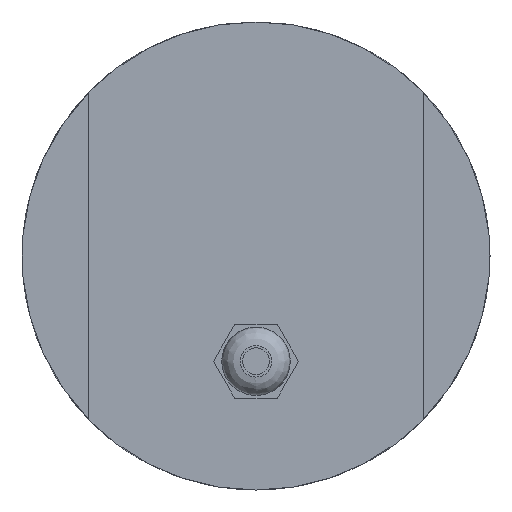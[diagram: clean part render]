
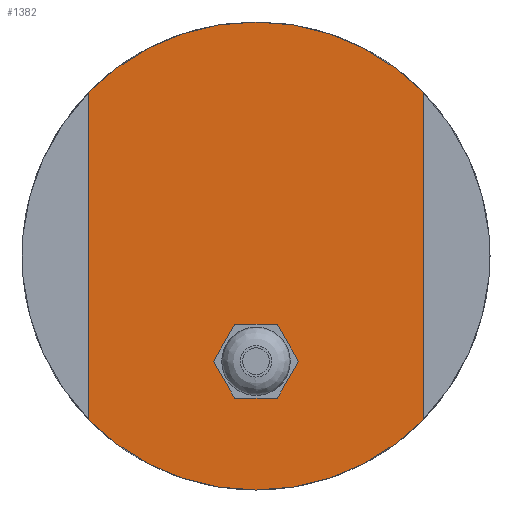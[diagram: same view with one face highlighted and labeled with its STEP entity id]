
A CAD part, left-side view. The second image highlights one B-rep face of the part: STEP entity #1382.
In plain terms, the highlighted planar face has unit normal (-1, 0, 0).
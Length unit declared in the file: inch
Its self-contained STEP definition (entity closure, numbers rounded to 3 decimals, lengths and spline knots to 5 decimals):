
#51=FACE_BOUND('',#265,.T.);
#101=PLANE('',#1530);
#177=FACE_OUTER_BOUND('',#264,.T.);
#264=EDGE_LOOP('',(#1239,#1240,#1241,#1242,#1243));
#265=EDGE_LOOP('',(#1244,#1245));
#376=LINE('',#2503,#496);
#382=LINE('',#2518,#502);
#496=VECTOR('',#1890,0.3937);
#502=VECTOR('',#1906,0.3937);
#521=CIRCLE('',#1438,0.19685);
#522=CIRCLE('',#1439,0.19685);
#558=CIRCLE('',#1515,1.75);
#560=CIRCLE('',#1517,1.75);
#562=CIRCLE('',#1519,1.75);
#604=VERTEX_POINT('',#2076);
#605=VERTEX_POINT('',#2077);
#680=VERTEX_POINT('',#2481);
#681=VERTEX_POINT('',#2483);
#684=VERTEX_POINT('',#2489);
#685=VERTEX_POINT('',#2491);
#688=VERTEX_POINT('',#2497);
#751=EDGE_CURVE('',#604,#605,#521,.T.);
#752=EDGE_CURVE('',#605,#604,#522,.T.);
#865=EDGE_CURVE('',#681,#680,#558,.T.);
#869=EDGE_CURVE('',#685,#684,#560,.T.);
#873=EDGE_CURVE('',#680,#688,#562,.T.);
#875=EDGE_CURVE('',#684,#681,#376,.T.);
#882=EDGE_CURVE('',#688,#685,#382,.T.);
#1239=ORIENTED_EDGE('',*,*,#875,.T.);
#1240=ORIENTED_EDGE('',*,*,#865,.T.);
#1241=ORIENTED_EDGE('',*,*,#873,.T.);
#1242=ORIENTED_EDGE('',*,*,#882,.T.);
#1243=ORIENTED_EDGE('',*,*,#869,.T.);
#1244=ORIENTED_EDGE('',*,*,#751,.T.);
#1245=ORIENTED_EDGE('',*,*,#752,.T.);
#1382=ADVANCED_FACE('',(#177,#51),#101,.F.);
#1438=AXIS2_PLACEMENT_3D('',#2078,#1656,#1657);
#1439=AXIS2_PLACEMENT_3D('',#2079,#1658,#1659);
#1515=AXIS2_PLACEMENT_3D('',#2484,#1871,#1872);
#1517=AXIS2_PLACEMENT_3D('',#2492,#1877,#1878);
#1519=AXIS2_PLACEMENT_3D('',#2499,#1883,#1884);
#1530=AXIS2_PLACEMENT_3D('',#2530,#1917,#1918);
#1656=DIRECTION('center_axis',(1.,0.,0.));
#1657=DIRECTION('ref_axis',(0.,-1.,0.));
#1658=DIRECTION('center_axis',(1.,0.,0.));
#1659=DIRECTION('ref_axis',(0.,-1.,0.));
#1871=DIRECTION('center_axis',(-1.,0.,0.));
#1872=DIRECTION('ref_axis',(0.,0.,-1.));
#1877=DIRECTION('center_axis',(-1.,0.,0.));
#1878=DIRECTION('ref_axis',(0.,0.,-1.));
#1883=DIRECTION('center_axis',(-1.,0.,0.));
#1884=DIRECTION('ref_axis',(0.,0.,-1.));
#1890=DIRECTION('',(0.,0.,1.));
#1906=DIRECTION('',(0.,0.,-1.));
#1917=DIRECTION('center_axis',(1.,0.,0.));
#1918=DIRECTION('ref_axis',(0.,0.,-1.));
#2076=CARTESIAN_POINT('',(-5.625,-0.19685,-0.7874));
#2077=CARTESIAN_POINT('',(-5.625,0.19685,-0.7874));
#2078=CARTESIAN_POINT('Origin',(-5.625,0.,-0.7874));
#2079=CARTESIAN_POINT('Origin',(-5.625,0.,-0.7874));
#2481=CARTESIAN_POINT('',(-5.625,0.,1.75));
#2483=CARTESIAN_POINT('',(-5.625,-1.25,1.22474));
#2484=CARTESIAN_POINT('Origin',(-5.625,0.,0.));
#2489=CARTESIAN_POINT('',(-5.625,-1.25,-1.22474));
#2491=CARTESIAN_POINT('',(-5.625,1.25,-1.22474));
#2492=CARTESIAN_POINT('Origin',(-5.625,0.,0.));
#2497=CARTESIAN_POINT('',(-5.625,1.25,1.22474));
#2499=CARTESIAN_POINT('Origin',(-5.625,0.,0.));
#2503=CARTESIAN_POINT('',(-5.625,-1.25,0.));
#2518=CARTESIAN_POINT('',(-5.625,1.25,0.));
#2530=CARTESIAN_POINT('Origin',(-5.625,0.,0.));
